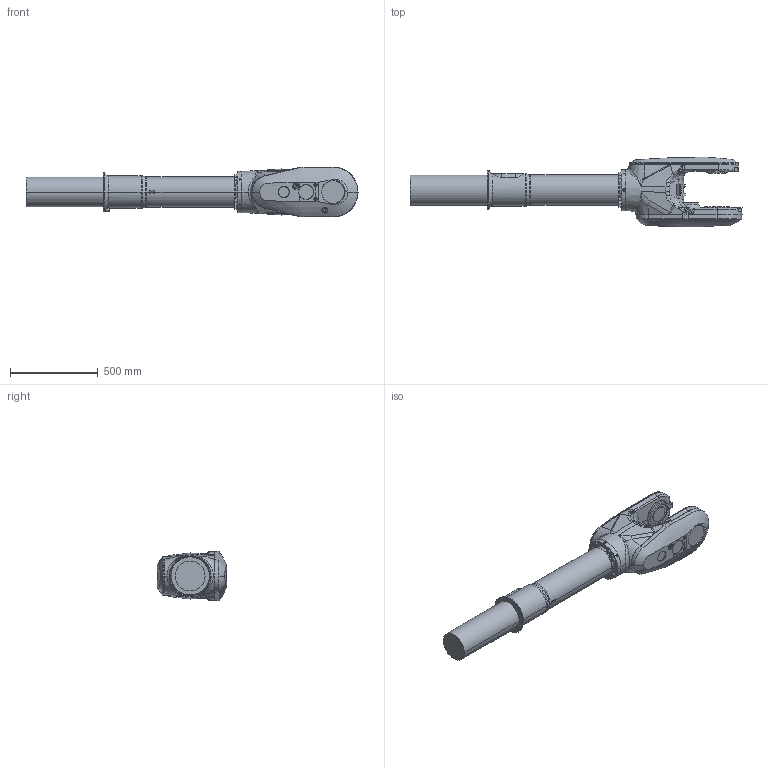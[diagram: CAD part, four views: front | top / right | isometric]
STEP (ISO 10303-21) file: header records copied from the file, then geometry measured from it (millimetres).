
FILE_DESCRIPTION (( 'STEP AP214' ), '1' );
FILE_NAME ('IRB6730_210kg-310_OC_00_LINK04_CAD.step', '2026-05-26T08:41:39', ( '' ), ( '' ), 'SwSTEP 2.0', 'SolidWorks 2024', '' );
FILE_SCHEMA (( 'AUTOMOTIVE_DESIGN' ));
Length unit declared in the file: millimetre
Products named in the file (1): IRB6730_210kg-310_OC_00_LINK04_CAD
Bounding box: 1887.5 x 396.47 x 284 mm (x, y, z)
Volume: 66581742.2 mm3; surface area: 1601483 mm2
Topology: 1 solids, 4 shells, 727 faces, 1803 edges, 1126 vertices
Faces by surface type: plane 309, cylinder 173, cone 122, bspline 90, torus 33
Entity records: 42146 total; most frequent: CARTESIAN_POINT 18139, ORIENTED_EDGE 3558, DIRECTION 2990, EDGE_CURVE 1779, VERTEX_POINT 1126, AXIS2_PLACEMENT_3D 1100, EDGE_LOOP 797, VECTOR 790
